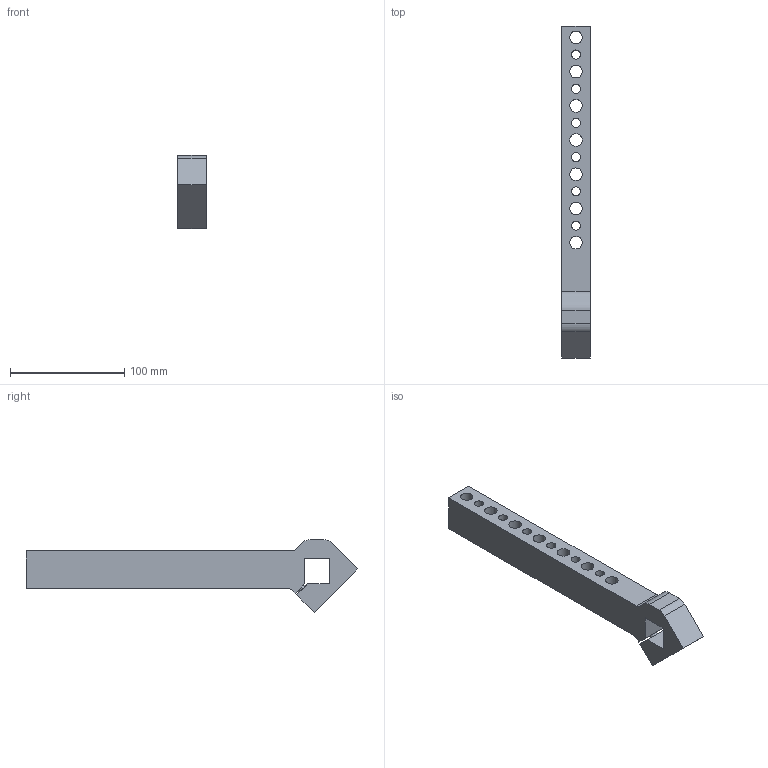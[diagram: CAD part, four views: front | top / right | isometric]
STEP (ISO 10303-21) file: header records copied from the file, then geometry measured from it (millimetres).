
FILE_DESCRIPTION(/* description */ (''),/* implementation_level */ '2;1');
FILE_NAME(/* name */ 'C:\PNX_VAULTFOLDER\Area Tecnica\Disegni\VARIE-3D\Componenti\7000\QNACA###M\QNACA011M.stp',/* time_stamp */ '2018-10-18T14:52:43+02:00',/* author */ ('donadda1'),/* organization */ ('Pneumax S.p.A.'),/* preprocessor_version */ 'ST-DEVELOPER v17',/* originating_system */ 'Autodesk Inventor 2019',/* authorisation */ '');
FILE_SCHEMA (('AUTOMOTIVE_DESIGN { 1 0 10303 214 3 1 1 }'));
Length unit declared in the file: millimetre
Products named in the file (1): QNACA011M
Bounding box: 25 x 291.06 x 64.06 mm (x, y, z)
Volume: 207351.5 mm3; surface area: 49137.9 mm2
Topology: 1 solids, 1 shells, 35 faces, 99 edges, 66 vertices
Faces by surface type: cylinder 18, plane 17
Full cylindrical faces by diameter (mm): 8 x7, 11 x7
Entity records: 1244 total; most frequent: DIRECTION 207, CARTESIAN_POINT 201, ORIENTED_EDGE 198, EDGE_CURVE 99, AXIS2_PLACEMENT_3D 72, VERTEX_POINT 66, EDGE_LOOP 63, LINE 63
